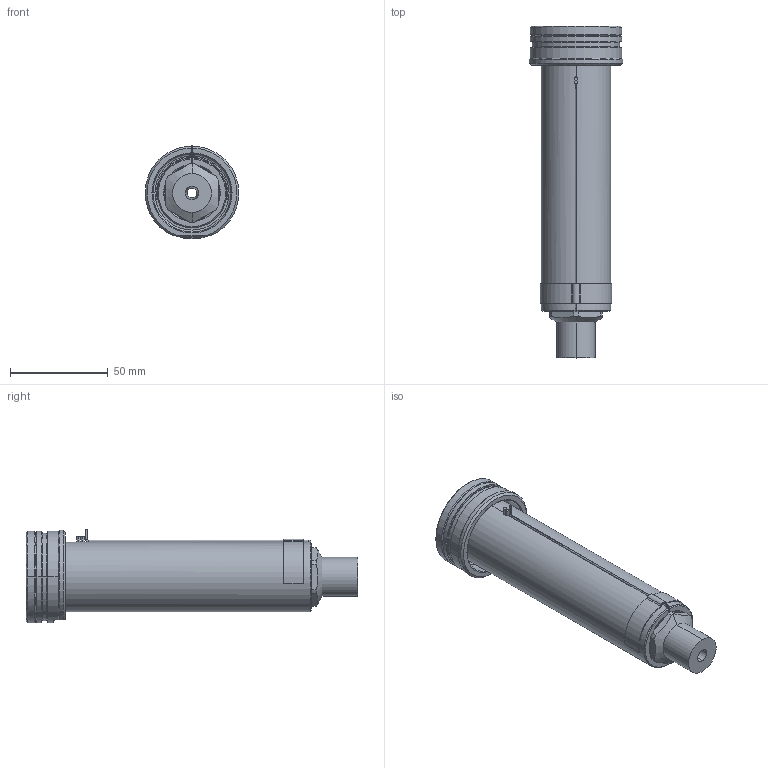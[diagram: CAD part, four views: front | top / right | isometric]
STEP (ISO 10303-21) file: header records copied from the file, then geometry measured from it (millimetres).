
FILE_DESCRIPTION((''),'2;1');
FILE_NAME('EO16_VG-FBE_WR_140_SW','2024-02-19T14:13:28',('sundharh'),(''),'CREO PARAMETRIC BY PTC INC, 2023154','CREO PARAMETRIC BY PTC INC, 2023154','');
FILE_SCHEMA(('CONFIG_CONTROL_DESIGN'));
Length unit declared in the file: millimetre
Products named in the file (1): EO16_VG-FBE_WR_140_SW
Bounding box: 47.97 x 170 x 48 mm (x, y, z)
Volume: 134908.1 mm3; surface area: 35356.2 mm2
Topology: 1 solids, 1 shells, 199 faces, 478 edges, 288 vertices
Faces by surface type: cylinder 72, plane 47, cone 41, torus 24, bspline 13, sphere 2
Entity records: 6680 total; most frequent: CARTESIAN_POINT 1958, DIRECTION 1064, ORIENTED_EDGE 944, EDGE_CURVE 472, AXIS2_PLACEMENT_3D 446, VERTEX_POINT 288, CIRCLE 260, EDGE_LOOP 216
